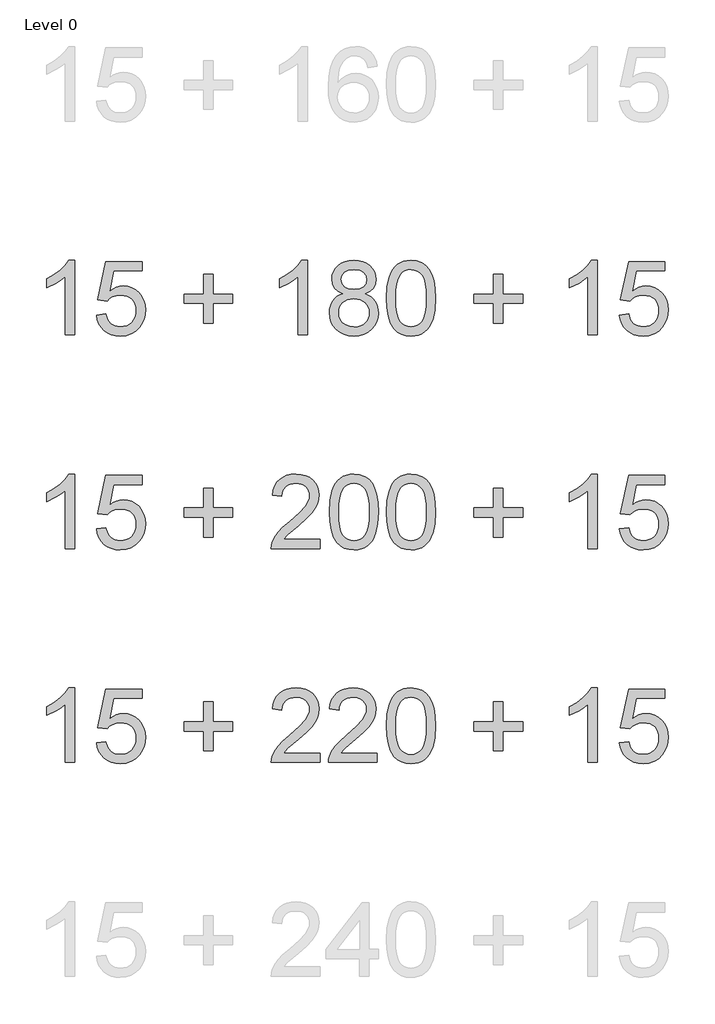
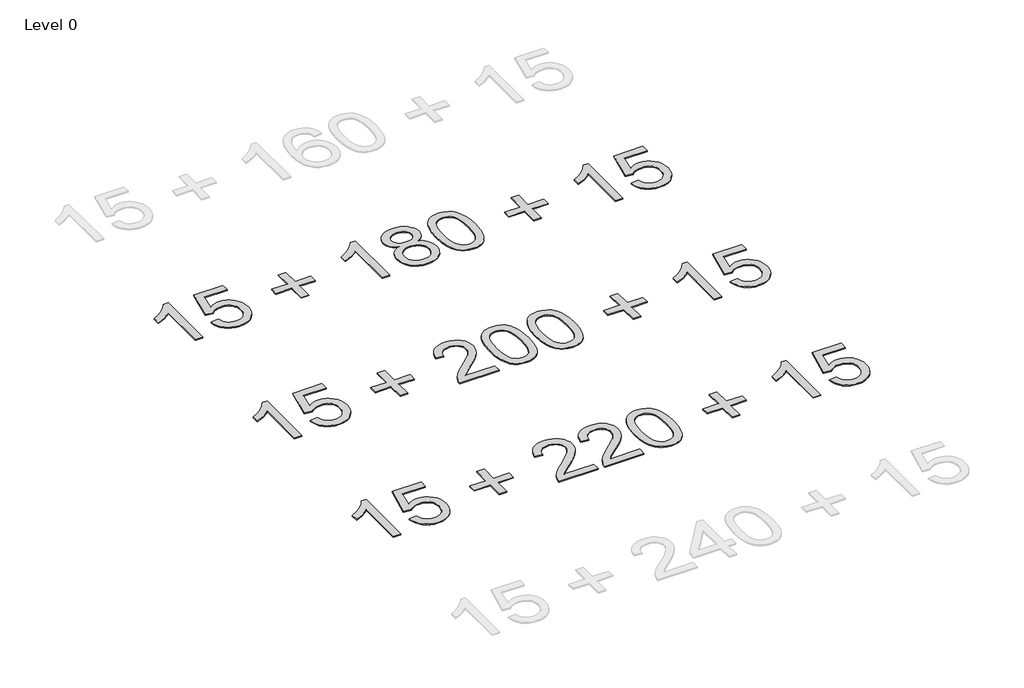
# One storey, part 7 of 11: 3 proxies.
"""IFC4 building model written with IfcOpenShell, lengths in millimetres."""

import ifcopenshell
import ifcopenshell.guid

model = None  # the IFC model being written
_history = None  # IfcOwnerHistory: only IFC2X3 demands one
_inside = {}  # id of a spatial element -> (the spatial element, [elements in it])
_under = {}  # id of a project, library or spatial element -> (it, [spatial elements below it])
_declared = {}  # id of a project -> (the project, [libraries it declares])
_typed = {}  # id of a type object -> (the type object, [elements of that type])
_made_of = {}  # id of a material, layer set ... -> (it, [elements and type objects made of it])


def new_model(schema):
    """Start an empty IFC model of exactly this schema.

    Asked for "IFC4X3", IfcOpenShell would pick the latest addendum, in which some entities
    have other attributes; the version numbers below select the first issue.
    IFC2X3 requires an IfcOwnerHistory on every rooted entity: one is made here for all.
    """
    global model, _history
    if schema == "IFC4X3":
        model = ifcopenshell.file(schema_version=(4, 3, 0, 0))
    else:
        model = ifcopenshell.file(schema=schema)
    _inside.clear()
    _under.clear()
    _declared.clear()
    _typed.clear()
    _made_of.clear()
    _history = None
    if model.schema == "IFC2X3":
        org = make("IfcOrganization", Name="unknown")
        user = make(
            "IfcPersonAndOrganization",
            ThePerson=make("IfcPerson", FamilyName="unknown"),
            TheOrganization=org,
        )
        app = make(
            "IfcApplication",
            ApplicationDeveloper=org,
            Version="unknown",
            ApplicationFullName="unknown",
            ApplicationIdentifier="unknown",
        )
        _history = make(
            "IfcOwnerHistory",
            OwningUser=user,
            OwningApplication=app,
            ChangeAction="ADDED",
            CreationDate=0,
        )
    return model


def make(cls, **values):
    """One entity of the class cls with the attributes given. An attribute that is None is left unset."""
    return model.create_entity(
        cls, **{name: value for name, value in values.items() if value is not None}
    )


def rooted(cls, **values):
    """An entity with a GlobalId (a new one), such as an element, a storey or a relation."""
    return make(cls, GlobalId=ifcopenshell.guid.new(), OwnerHistory=_history, **values)


def si_unit(unit_type, name, prefix=None):
    """IfcSIUnit, for example si_unit("LENGTHUNIT", "METRE", prefix="MILLI")."""
    return make("IfcSIUnit", UnitType=unit_type, Prefix=prefix, Name=name)


def assignment(units):
    """IfcUnitAssignment: the units of a project."""
    return None if units is None else make("IfcUnitAssignment", Units=units)


def point(xyz):
    """IfcCartesianPoint."""
    return None if xyz is None else make("IfcCartesianPoint", Coordinates=xyz)


def direction(xyz):
    """IfcDirection."""
    return None if xyz is None else make("IfcDirection", DirectionRatios=xyz)


def frame(location, z_axis=None, x_axis=None):
    """IfcAxis2Placement3D, a coordinate frame: its origin and axes. An axis left out is left unset."""
    return make(
        "IfcAxis2Placement3D",
        Location=point(location),
        Axis=direction(z_axis),
        RefDirection=direction(x_axis),
    )


def origin():
    """The frame at (0, 0, 0) with its axes left unset."""
    return frame((0.0, 0.0, 0.0))


def origin_with_axes():
    """The frame at (0, 0, 0) with the z axis (0, 0, 1) and the x axis (1, 0, 0) written out."""
    return frame((0.0, 0.0, 0.0), z_axis=(0.0, 0.0, 1.0), x_axis=(1.0, 0.0, 0.0))


def place(relative_to, where):
    """IfcLocalPlacement: puts the frame where relative to a parent placement (None: the world)."""
    return make(
        "IfcLocalPlacement", PlacementRelTo=relative_to, RelativePlacement=where
    )


def context(
    kind, dimensions, precision=None, world=None, true_north=None, identifier=None
):
    """IfcGeometricRepresentationContext, for example the 3D "Model" context."""
    return make(
        "IfcGeometricRepresentationContext",
        ContextIdentifier=identifier,
        ContextType=kind,
        CoordinateSpaceDimension=dimensions,
        Precision=precision,
        WorldCoordinateSystem=world,
        TrueNorth=true_north,
    )


def project(units=None, contexts=None):
    """IfcProject with its units and contexts."""
    return rooted(
        "IfcProject",
        Name="project",
        RepresentationContexts=contexts,
        UnitsInContext=assignment(units),
    )


def spatial(cls, under=None, at=None, **own):
    """A site, building, storey or space (cls), placed at a placement, below another one or the project."""
    s = rooted(cls, ObjectPlacement=at, **own)
    if under is not None:
        _under.setdefault(under.id(), (under, []))[1].append(s)
    return s


def polyline(points):
    """IfcPolyline through the points."""
    return make("IfcPolyline", Points=[point(p) for p in points])


def outline(outer, holes=None, kind="AREA"):
    """IfcArbitraryClosedProfileDef: a profile drawn as a closed curve; with holes, ...WithVoids."""
    if holes is None:
        return make("IfcArbitraryClosedProfileDef", ProfileType=kind, OuterCurve=outer)
    return make(
        "IfcArbitraryProfileDefWithVoids",
        ProfileType=kind,
        OuterCurve=outer,
        InnerCurves=holes,
    )


def extrude(swept, where, along, depth):
    """IfcExtrudedAreaSolid: the profile swept, set in the frame where, extruded along a direction by depth."""
    return make(
        "IfcExtrudedAreaSolid",
        SweptArea=swept,
        Position=where,
        ExtrudedDirection=direction(along),
        Depth=depth,
    )


def shape(context_of_items, identifier, shape_type, items):
    """IfcShapeRepresentation: the items that make up one representation, for example the "Body"."""
    return make(
        "IfcShapeRepresentation",
        ContextOfItems=context_of_items,
        RepresentationIdentifier=identifier,
        RepresentationType=shape_type,
        Items=items,
    )


def made_of(thing, what):
    """Note that an element or type object is made of a material, layer set ...; save() writes the relation."""
    if what is not None:
        _made_of.setdefault(what.id(), (what, []))[1].append(thing)
    return thing


def element(
    cls,
    number,
    at=None,
    inside=None,
    cuts=None,
    type_object=None,
    material=None,
    context=None,
    identifier="Body",
    shape_type=None,
    held_by="IfcProductDefinitionShape",
    body=None,
    shapes=None,
    **own,
):
    """One element of the class cls, such as IfcWall. Its Tag is "e" and its number.

    at: its placement. inside: the storey or other place that contains it. cuts: it is an
    opening in that element (IfcRelVoidsElement). A single representation is given by context,
    identifier, shape_type and body (its items); several are given by shapes. held_by: the class
    of the entity that holds the representations. save() writes the other relations.
    """
    e = rooted(cls, Tag="e%d" % number, ObjectPlacement=at, **own)
    if body is not None:
        shapes = [shape(context, identifier, shape_type, body)]
    if shapes is not None:
        e.Representation = make(held_by, Representations=shapes)
    if inside is not None:
        _inside.setdefault(inside.id(), (inside, []))[1].append(e)
    if cuts is not None:
        rooted(
            "IfcRelVoidsElement", RelatingBuildingElement=cuts, RelatedOpeningElement=e
        )
    if type_object is not None:
        _typed.setdefault(type_object.id(), (type_object, []))[1].append(e)
    return made_of(e, material)


def aggregate(whole, parts):
    """IfcRelAggregates: a whole, such as a stair, and the parts it consists of."""
    return rooted("IfcRelAggregates", RelatingObject=whole, RelatedObjects=parts)


def save(model, path):
    """Write the relations noted so far, then the file.

    IfcRelAggregates (storeys below a building ...), IfcRelContainedInSpatialStructure (elements
    in a storey), IfcRelDefinesByType, IfcRelAssociatesMaterial and IfcRelDeclares: one each for
    every whole, place, type object, material and project.
    """
    for whole, parts in _under.values():
        aggregate(whole, parts)
    for where, things in _inside.values():
        rooted(
            "IfcRelContainedInSpatialStructure",
            RelatedElements=things,
            RelatingStructure=where,
        )
    for kind, things in _typed.values():
        rooted("IfcRelDefinesByType", RelatedObjects=things, RelatingType=kind)
    for what, things in _made_of.values():
        rooted("IfcRelAssociatesMaterial", RelatedObjects=things, RelatingMaterial=what)
    for by, libraries in _declared.values():
        rooted("IfcRelDeclares", RelatingContext=by, RelatedDefinitions=libraries)
    model.write(path)


model = new_model("IFC4")

# Units and contexts
model_context = context("Model", 3, world=origin())
ifc_project = project(units=[si_unit("LENGTHUNIT", "METRE", prefix="MILLI")], contexts=[model_context])

# Site, building, storey
site = spatial("IfcSite", under=ifc_project)
building = spatial("IfcBuilding", under=site)
storey = spatial("IfcBuildingStorey", under=building, Name="Level 0", Elevation=0.0)

# Proxies
placement = place(None, origin())
element("IfcBuildingElementProxy", 1, Name="600mm Arial-500", ObjectType="600mm Arial-500", at=placement, inside=storey, context=model_context, shape_type="SweptSolid", body=[
    extrude(outline(polyline([(27142.4555622, 2770.6676088), (27079.6703683, 2770.6676088), (27079.6703683, 3162.0940517), (27053.4587762, 3140.8948517), (27020.1961124, 3119.7263086), (26954.0999806, 3088.0271433), (26954.0999806, 3147.3787719), (27003.4114964, 3174.2035007), (27046.1317931, 3206.1172638), (27079.8083241, 3240.0543778), (27101.9885427, 3272.9491596), (27142.4555622, 3272.9491596), (27142.4555622, 2770.6676088)])), origin_with_axes(), (0.0, 0.0, 1.0), 8.0),
    extrude(outline(polyline([(27291.5703975, 2904.0861457), (27354.3555914, 2911.934295), (27365.8825606, 2874.2417189), (27374.8650126, 2859.4076438), (27385.993443, 2847.2483775), (27399.244859, 2837.7792482), (27414.5962681, 2831.0155844), (27451.5990654, 2825.6046534), (27475.5113951, 2827.4862166), (27496.6032962, 2833.1309059), (27514.8747686, 2842.5387215), (27530.3258124, 2855.7096634), (27542.6115382, 2871.9922738), (27551.3870566, 2890.735095), (27556.6523677, 2911.9381271), (27558.4074714, 2935.60137), (27556.7634987, 2957.9655296), (27551.8315807, 2977.8464858), (27543.6117174, 2995.2442385), (27532.1039087, 3010.1587877), (27517.2698337, 3022.1226167), (27499.0711712, 3030.6682089), (27477.5079214, 3035.7955642), (27452.5800841, 3037.5046827), (27422.1225206, 3034.7762245), (27397.4590985, 3026.5908501), (27377.7620833, 3014.0522055), (27362.2037406, 2998.2639365), (27299.4185468, 3006.1120857), (27354.3555914, 3265.1010103), (27597.6482175, 3265.1010103), (27597.6482175, 3202.3158165), (27405.1233067, 3202.3158165), (27378.1452937, 3063.9921863), (27400.3025197, 3079.8724258), (27422.9962403, 3091.215454), (27446.2264555, 3098.0212709), (27469.9931652, 3100.2898765), (27500.573356, 3097.4771121), (27528.6703434, 3089.0388188), (27554.2841273, 3074.9749967), (27577.4147078, 3055.2856458), (27596.5675642, 3031.1740467), (27610.2481759, 3003.8434801), (27618.4565429, 2973.2939461), (27621.1926652, 2939.5254446), (27618.7324544, 2906.9985449), (27611.3518218, 2876.7402508), (27599.0507676, 2848.7505623), (27581.8292917, 2823.0294795), (27555.7403269, 2796.6875958), (27525.2980918, 2777.8719646), (27490.5025864, 2766.5825858), (27451.3538108, 2762.8194596), (27418.9533705, 2765.2375173), (27389.6875913, 2772.4916904), (27363.5564734, 2784.5819789), (27340.5600166, 2801.5083828), (27321.4263207, 2822.4278391), (27306.8834856, 2846.4972851), (27296.9315112, 2873.7167206), (27291.5703975, 2904.0861457)])), origin_with_axes(), (0.0, 0.0, 1.0), 8.0),
    extrude(outline(polyline([(28013.6001267, 2849.1491011), (28013.6001267, 2982.567638), (27880.1815898, 2982.567638), (27880.1815898, 3045.3528319), (28013.6001267, 3045.3528319), (28013.6001267, 3178.7713688), (28076.3853206, 3178.7713688), (28076.3853206, 3045.3528319), (28209.8038575, 3045.3528319), (28209.8038575, 2982.567638), (28076.3853206, 2982.567638), (28076.3853206, 2849.1491011), (28013.6001267, 2849.1491011)])), origin_with_axes(), (0.0, 0.0, 1.0), 8.0),
    extrude(outline(polyline([(28712.0854082, 2770.6676088), (28649.3002144, 2770.6676088), (28649.3002144, 3162.0940517), (28623.0886222, 3140.8948517), (28589.8259585, 3119.7263086), (28523.7298267, 3088.0271433), (28523.7298267, 3147.3787719), (28573.0413425, 3174.2035007), (28615.7616392, 3206.1172638), (28649.4381701, 3240.0543778), (28671.6183888, 3272.9491596), (28712.0854082, 3272.9491596), (28712.0854082, 2770.6676088)])), origin_with_axes(), (0.0, 0.0, 1.0), 8.0),
    extrude(outline(polyline([(28952.6802331, 3047.3148692), (28919.0650158, 3063.869559), (28895.4745828, 3086.3103607), (28881.5410523, 3114.1774218), (28876.8965421, 3147.0108899), (28879.4257308, 3172.6170096), (28887.0132969, 3196.0924794), (28899.6592405, 3217.4372993), (28917.3635615, 3236.6514694), (28939.2755329, 3252.5317088), (28964.5444274, 3263.874737), (28993.1702452, 3270.6805539), (29025.1529861, 3272.9491596), (29057.2890113, 3270.6269045), (29086.1294268, 3263.6601392), (29111.6742329, 3252.0488637), (29133.9234294, 3235.7930781), (29151.9496471, 3216.2033618), (29164.825517, 3194.5902946), (29172.5510389, 3170.9538764), (29175.1262128, 3145.2941072), (29170.5430163, 3113.5182999), (29156.7934267, 3086.1264197), (29133.72416, 3063.8235737), (29101.1819318, 3047.3148692), (29121.8178125, 3038.5355187), (29139.8248697, 3027.4032562), (29155.2031035, 3013.9180818), (29167.9525139, 2998.0799955), (29177.9581378, 2980.2415508), (29185.105012, 2960.7553014), (29190.8225113, 2916.8393882), (29187.9867542, 2885.5234334), (29179.4794831, 2856.8133094), (29165.3006979, 2830.7090161), (29145.4503986, 2807.2105537), (29120.9709175, 2787.78945), (29092.9045869, 2773.9172331), (29061.2514069, 2765.593903), (29026.0113775, 2762.8194596), (28990.771348, 2765.6053993), (28959.118168, 2773.9632184), (28931.0518375, 2787.8929168), (28906.5723564, 2807.3944947), (28886.722057, 2831.0577376), (28872.5432718, 2857.4724313), (28864.0360007, 2886.6385757), (28861.2002436, 2918.5561709), (28862.6871, 2942.3765301), (28867.1476692, 2964.1735383), (28874.5819512, 2983.9471955), (28884.989946, 3001.6975018), (28898.1417273, 3017.1025603), (28913.8073689, 3029.8404744), (28931.9868709, 3039.911244), (28952.6802331, 3047.3148692)]), holes=[polyline([(28939.6817359, 3145.1714799), (28945.2459511, 3117.7642713), (28961.9385966, 3095.8752926), (28974.3354534, 3087.5059772), (28989.2691632, 3081.5278947), (29026.7471414, 3076.7454288), (29063.3514, 3081.4972379), (29078.0206945, 3087.4369993), (29090.2680993, 3095.7526652), (29106.8227891, 3116.9058799), (29112.341019, 3142.3510513), (29106.6388481, 3168.7619129), (29089.5323353, 3190.6049063), (29077.009019, 3199.1619948), (29062.247754, 3205.2742009), (29026.0113775, 3210.1639657), (28989.5450747, 3205.3814998), (28974.7723133, 3199.4034174), (28962.3064786, 3191.034102), (28945.3379216, 3170.0035146), (28939.6817359, 3145.1714799)]), polyline([(28923.9854375, 2920.7634629), (28926.6065967, 2896.7438343), (28934.4700743, 2873.4906265), (28948.9860847, 2853.2111315), (28971.5648422, 2838.1126413), (28998.6041688, 2828.7316504), (29026.5018868, 2825.6046534), (29049.2032716, 2827.2486261), (29069.2375119, 2832.1805441), (29086.6046077, 2840.4004074), (29101.3045591, 2851.9082161), (29113.0001409, 2865.9528777), (29121.3541279, 2881.7832998), (29126.3665201, 2899.3994824), (29128.0373175, 2918.8014255), (29126.3128706, 2938.5137691), (29121.13953, 2956.4480164), (29112.5172958, 2972.6041673), (29100.4461678, 2986.982222), (29085.3476776, 2998.7851027), (29067.6433566, 3007.2157317), (29047.3332048, 3012.2741092), (29024.4172221, 3013.960235), (29002.0492304, 3012.2971018), (28982.2794053, 3007.3077022), (28965.1077467, 2998.9920363), (28950.5342548, 2987.350104), (28938.9191472, 2973.2096398), (28930.6226418, 2957.3983782), (28925.6447385, 2939.9163192), (28923.9854375, 2920.7634629)])]), origin_with_axes(), (0.0, 0.0, 1.0), 8.0),
    extrude(outline(polyline([(29245.7595559, 3017.7616822), (29250.3734093, 3098.1592266), (29264.2149693, 3162.2779927), (29274.5616504, 3188.4780885), (29287.1462804, 3211.0989991), (29301.9688591, 3230.1407245), (29319.0293866, 3245.6032646), (29338.3853445, 3257.5670936), (29360.0942143, 3266.1126858), (29384.1559961, 3271.2400411), (29410.5706897, 3272.9491596), (29449.2596129, 3268.9024576), (29483.9018341, 3256.7623518), (29512.8725412, 3237.004023), (29534.5469221, 3210.1026521), (29550.9176709, 3176.2881653), (29563.9774817, 3135.790489), (29572.5307381, 3084.3636518), (29575.3818236, 3017.7616822), (29570.8139555, 2937.8239904), (29557.1103512, 2873.8585085), (29546.8441442, 2847.6469163), (29534.3169959, 2824.9915168), (29519.5289061, 2805.8923099), (29502.4798749, 2790.3492956), (29483.1009244, 2778.3049923), (29461.3230767, 2769.7019186), (29437.1463318, 2764.5400743), (29410.5706897, 2762.8194596), (29375.9897822, 2765.8085008), (29345.3329493, 2774.7756244), (29318.600191, 2789.7208305), (29295.7915073, 2810.644119), (29273.9025285, 2848.4669866), (29258.2675437, 2895.594203), (29248.8865529, 2952.0257682), (29245.7595559, 3017.7616822)]), holes=[polyline([(29308.5447498, 3017.8843096), (29310.3841597, 2963.3036507), (29315.9023897, 2919.1233223), (29325.0994395, 2885.3433245), (29337.9753094, 2861.9636573), (29353.5489805, 2846.0565931), (29370.8394343, 2834.6944044), (29389.8466707, 2827.8770912), (29410.5706897, 2825.6046534), (29431.2947088, 2827.8847554), (29450.3019452, 2834.7250612), (29467.592399, 2846.125571), (29483.1660701, 2862.0862846), (29496.04194, 2885.5042729), (29505.2389898, 2919.2766065), (29510.7572198, 2963.4032854), (29512.5966297, 3017.8843096), (29510.8185334, 3071.0202653), (29505.4842445, 3114.4226765), (29496.593763, 3148.0915432), (29484.1470888, 3172.0268656), (29468.8340007, 3188.7118469), (29451.3442775, 3200.6296907), (29431.6779192, 3207.780397), (29409.8349258, 3210.1639657), (29389.2182056, 3208.0639727), (29370.5328659, 3201.7639935), (29353.7789067, 3191.2640282), (29338.956328, 3176.5640768), (29325.6512625, 3150.5057688), (29316.1476443, 3115.3730383), (29310.4454734, 3071.1658852), (29308.5447498, 3017.8843096)])]), origin_with_axes(), (0.0, 0.0, 1.0), 8.0),
    extrude(outline(polyline([(29967.7892851, 2849.1491011), (29967.7892851, 2982.567638), (29834.3707482, 2982.567638), (29834.3707482, 3045.3528319), (29967.7892851, 3045.3528319), (29967.7892851, 3178.7713688), (30030.574479, 3178.7713688), (30030.574479, 3045.3528319), (30163.9930159, 3045.3528319), (30163.9930159, 2982.567638), (30030.574479, 2982.567638), (30030.574479, 2849.1491011), (29967.7892851, 2849.1491011)])), origin_with_axes(), (0.0, 0.0, 1.0), 8.0),
    extrude(outline(polyline([(30666.2745666, 2770.6676088), (30603.4893728, 2770.6676088), (30603.4893728, 3162.0940517), (30577.2777806, 3140.8948517), (30544.0151169, 3119.7263086), (30477.9189851, 3088.0271433), (30477.9189851, 3147.3787719), (30527.2305009, 3174.2035007), (30569.9507975, 3206.1172638), (30603.6273285, 3240.0543778), (30625.8075471, 3272.9491596), (30666.2745666, 3272.9491596), (30666.2745666, 2770.6676088)])), origin_with_axes(), (0.0, 0.0, 1.0), 8.0),
    extrude(outline(polyline([(30815.389402, 2904.0861457), (30878.1745958, 2911.934295), (30889.701565, 2874.2417189), (30898.6840171, 2859.4076438), (30909.8124474, 2847.2483775), (30923.0638635, 2837.7792482), (30938.4152726, 2831.0155844), (30975.4180699, 2825.6046534), (30999.3303996, 2827.4862166), (31020.4223006, 2833.1309059), (31038.6937731, 2842.5387215), (31054.1448169, 2855.7096634), (31066.4305427, 2871.9922738), (31075.2060611, 2890.735095), (31080.4713721, 2911.9381271), (31082.2264758, 2935.60137), (31080.5825032, 2957.9655296), (31075.6505852, 2977.8464858), (31067.4307218, 2995.2442385), (31055.9229132, 3010.1587877), (31041.0888381, 3022.1226167), (31022.8901757, 3030.6682089), (31001.3269258, 3035.7955642), (30976.3990886, 3037.5046827), (30945.941525, 3034.7762245), (30921.2781029, 3026.5908501), (30901.5810878, 3014.0522055), (30886.0227451, 2998.2639365), (30823.2375512, 3006.1120857), (30878.1745958, 3265.1010103), (31121.467222, 3265.1010103), (31121.467222, 3202.3158165), (30928.9423112, 3202.3158165), (30901.9642982, 3063.9921863), (30924.1215242, 3079.8724258), (30946.8152448, 3091.215454), (30970.0454599, 3098.0212709), (30993.8121697, 3100.2898765), (31024.3923605, 3097.4771121), (31052.4893479, 3089.0388188), (31078.1031318, 3074.9749967), (31101.2337122, 3055.2856458), (31120.3865686, 3031.1740467), (31134.0671803, 3003.8434801), (31142.2755473, 2973.2939461), (31145.0116697, 2939.5254446), (31142.5514588, 2906.9985449), (31135.1708263, 2876.7402508), (31122.8697721, 2848.7505623), (31105.6482962, 2823.0294795), (31079.5593314, 2796.6875958), (31049.1170963, 2777.8719646), (31014.3215909, 2766.5825858), (30975.1728152, 2762.8194596), (30942.7723749, 2765.2375173), (30913.5065958, 2772.4916904), (30887.3754778, 2784.5819789), (30864.379021, 2801.5083828), (30845.2453252, 2822.4278391), (30830.70249, 2846.4972851), (30820.7505157, 2873.7167206), (30815.389402, 2904.0861457)])), origin_with_axes(), (0.0, 0.0, 1.0), 8.0),
])
element("IfcBuildingElementProxy", 2, Name="600mm Arial-500", ObjectType="600mm Arial-500", at=placement, inside=storey, context=model_context, shape_type="SweptSolid", body=[
    extrude(outline(polyline([(27142.4555622, 1330.6676088), (27079.6703683, 1330.6676088), (27079.6703683, 1722.0940517), (27053.4587762, 1700.8948517), (27020.1961124, 1679.7263086), (26954.0999806, 1648.0271433), (26954.0999806, 1707.3787719), (27003.4114964, 1734.2035007), (27046.1317931, 1766.1172638), (27079.8083241, 1800.0543778), (27101.9885427, 1832.9491596), (27142.4555622, 1832.9491596), (27142.4555622, 1330.6676088)])), origin_with_axes(), (0.0, 0.0, 1.0), 8.0),
    extrude(outline(polyline([(27291.5703975, 1464.0861457), (27354.3555914, 1471.934295), (27365.8825606, 1434.2417189), (27374.8650126, 1419.4076438), (27385.993443, 1407.2483775), (27399.244859, 1397.7792482), (27414.5962681, 1391.0155844), (27451.5990654, 1385.6046534), (27475.5113951, 1387.4862166), (27496.6032962, 1393.1309059), (27514.8747686, 1402.5387215), (27530.3258124, 1415.7096634), (27542.6115382, 1431.9922738), (27551.3870566, 1450.735095), (27556.6523677, 1471.9381271), (27558.4074714, 1495.60137), (27556.7634987, 1517.9655296), (27551.8315807, 1537.8464858), (27543.6117174, 1555.2442385), (27532.1039087, 1570.1587877), (27517.2698337, 1582.1226167), (27499.0711712, 1590.6682089), (27477.5079214, 1595.7955642), (27452.5800841, 1597.5046827), (27422.1225206, 1594.7762245), (27397.4590985, 1586.5908501), (27377.7620833, 1574.0522055), (27362.2037406, 1558.2639365), (27299.4185468, 1566.1120857), (27354.3555914, 1825.1010103), (27597.6482175, 1825.1010103), (27597.6482175, 1762.3158165), (27405.1233067, 1762.3158165), (27378.1452937, 1623.9921863), (27400.3025197, 1639.8724258), (27422.9962403, 1651.215454), (27446.2264555, 1658.0212709), (27469.9931652, 1660.2898765), (27500.573356, 1657.4771121), (27528.6703434, 1649.0388188), (27554.2841273, 1634.9749967), (27577.4147078, 1615.2856458), (27596.5675642, 1591.1740467), (27610.2481759, 1563.8434801), (27618.4565429, 1533.2939461), (27621.1926652, 1499.5254446), (27618.7324544, 1466.9985449), (27611.3518218, 1436.7402508), (27599.0507676, 1408.7505623), (27581.8292917, 1383.0294795), (27555.7403269, 1356.6875958), (27525.2980918, 1337.8719646), (27490.5025864, 1326.5825858), (27451.3538108, 1322.8194596), (27418.9533705, 1325.2375173), (27389.6875913, 1332.4916904), (27363.5564734, 1344.5819789), (27340.5600166, 1361.5083828), (27321.4263207, 1382.4278391), (27306.8834856, 1406.4972851), (27296.9315112, 1433.7167206), (27291.5703975, 1464.0861457)])), origin_with_axes(), (0.0, 0.0, 1.0), 8.0),
    extrude(outline(polyline([(28013.6001267, 1409.1491011), (28013.6001267, 1542.567638), (27880.1815898, 1542.567638), (27880.1815898, 1605.3528319), (28013.6001267, 1605.3528319), (28013.6001267, 1738.7713688), (28076.3853206, 1738.7713688), (28076.3853206, 1605.3528319), (28209.8038575, 1605.3528319), (28209.8038575, 1542.567638), (28076.3853206, 1542.567638), (28076.3853206, 1409.1491011), (28013.6001267, 1409.1491011)])), origin_with_axes(), (0.0, 0.0, 1.0), 8.0),
    extrude(outline(polyline([(28798.4150498, 1393.4528027), (28798.4150498, 1330.6676088), (28468.7927821, 1330.6676088), (28470.1723396, 1352.7711854), (28475.5372853, 1373.9550569), (28491.0343144, 1407.7848721), (28513.7356992, 1440.6030117), (28546.5538388, 1474.953993), (28592.4011325, 1513.3823331), (28660.1374048, 1573.5616961), (28700.7423801, 1617.9834471), (28721.021875, 1654.0358826), (28726.0917488, 1671.6942184), (28727.7817067, 1689.1072995), (28726.1837193, 1705.4895446), (28721.389757, 1720.5458816), (28713.39982, 1734.2763107), (28702.213908, 1746.6808317), (28688.4528222, 1756.9547028), (28672.7373632, 1764.2931822), (28655.0675311, 1768.6962699), (28635.4433259, 1770.1639657), (28596.2792218, 1764.431138), (28579.9736188, 1757.2651033), (28565.8523152, 1747.2326547), (28554.4288128, 1734.6710174), (28546.2166137, 1719.9174166), (28541.2157178, 1702.9718521), (28539.4261252, 1683.8343242), (28476.6409313, 1691.6824734), (28482.040366, 1724.09441), (28491.8620489, 1752.4136595), (28506.1059799, 1776.6402217), (28524.772159, 1796.7740967), (28547.4313907, 1812.6006867), (28573.6544791, 1823.9053939), (28603.4414244, 1830.6882181), (28636.7922266, 1832.9491596), (28670.4419328, 1830.4352993), (28700.3898265, 1822.8937184), (28726.6359076, 1810.3244169), (28749.1801761, 1792.7273948), (28767.286868, 1771.4055675), (28780.2202194, 1747.6618504), (28787.9802303, 1721.4962434), (28790.5669005, 1692.9087467), (28787.7771287, 1662.8803789), (28779.4078134, 1633.3731772), (28764.5545778, 1603.3601377), (28742.3130455, 1571.8142567), (28706.8584182, 1534.1523374), (28652.3658977, 1485.7911835), (28580.1383993, 1425.3972226), (28551.8114857, 1393.4528027), (28798.4150498, 1393.4528027)])), origin_with_axes(), (0.0, 0.0, 1.0), 8.0),
    extrude(outline(polyline([(28861.2002436, 1577.7616822), (28865.814097, 1658.1592266), (28879.655657, 1722.2779927), (28890.0023382, 1748.4780885), (28902.5869681, 1771.0989991), (28917.4095468, 1790.1407245), (28934.4700743, 1805.6032646), (28953.8260322, 1817.5670936), (28975.534902, 1826.1126858), (28999.5966838, 1831.2400411), (29026.0113775, 1832.9491596), (29064.7003006, 1828.9024576), (29099.3425218, 1816.7623518), (29128.3132289, 1797.004023), (29149.9876098, 1770.1026521), (29166.3583586, 1736.2881653), (29179.4181694, 1695.790489), (29187.9714258, 1644.3636518), (29190.8225113, 1577.7616822), (29186.2546432, 1497.8239904), (29172.5510389, 1433.8585085), (29162.2848319, 1407.6469163), (29149.7576836, 1384.9915168), (29134.9695938, 1365.8923099), (29117.9205626, 1350.3492956), (29098.5416121, 1338.3049923), (29076.7637644, 1329.7019186), (29052.5870195, 1324.5400743), (29026.0113775, 1322.8194596), (28991.4304699, 1325.8085008), (28960.773637, 1334.7756244), (28934.0408787, 1349.7208305), (28911.232195, 1370.644119), (28889.3432162, 1408.4669866), (28873.7082315, 1455.594203), (28864.3272406, 1512.0257682), (28861.2002436, 1577.7616822)]), holes=[polyline([(28923.9854375, 1577.8843096), (28925.8248474, 1523.3036507), (28931.3430774, 1479.1233223), (28940.5401272, 1445.3433245), (28953.4159971, 1421.9636573), (28968.9896682, 1406.0565931), (28986.280122, 1394.6944044), (29005.2873584, 1387.8770912), (29026.0113775, 1385.6046534), (29046.7353965, 1387.8847554), (29065.7426329, 1394.7250612), (29083.0330867, 1406.125571), (29098.6067578, 1422.0862846), (29111.4826277, 1445.5042729), (29120.6796775, 1479.2766065), (29126.1979075, 1523.4032854), (29128.0373175, 1577.8843096), (29126.2592211, 1631.0202653), (29120.9249322, 1674.4226765), (29112.0344507, 1708.0915432), (29099.5877765, 1732.0268656), (29084.2746884, 1748.7118469), (29066.7849653, 1760.6296907), (29047.1186069, 1767.780397), (29025.2756135, 1770.1639657), (29004.6588933, 1768.0639727), (28985.9735536, 1761.7639935), (28969.2195945, 1751.2640282), (28954.3970157, 1736.5640768), (28941.0919502, 1710.5057688), (28931.588332, 1675.3730383), (28925.8861611, 1631.1658852), (28923.9854375, 1577.8843096)])]), origin_with_axes(), (0.0, 0.0, 1.0), 8.0),
    extrude(outline(polyline([(29245.7595559, 1577.7616822), (29250.3734093, 1658.1592266), (29264.2149693, 1722.2779927), (29274.5616504, 1748.4780885), (29287.1462804, 1771.0989991), (29301.9688591, 1790.1407245), (29319.0293866, 1805.6032646), (29338.3853445, 1817.5670936), (29360.0942143, 1826.1126858), (29384.1559961, 1831.2400411), (29410.5706897, 1832.9491596), (29449.2596129, 1828.9024576), (29483.9018341, 1816.7623518), (29512.8725412, 1797.004023), (29534.5469221, 1770.1026521), (29550.9176709, 1736.2881653), (29563.9774817, 1695.790489), (29572.5307381, 1644.3636518), (29575.3818236, 1577.7616822), (29570.8139555, 1497.8239904), (29557.1103512, 1433.8585085), (29546.8441442, 1407.6469163), (29534.3169959, 1384.9915168), (29519.5289061, 1365.8923099), (29502.4798749, 1350.3492956), (29483.1009244, 1338.3049923), (29461.3230767, 1329.7019186), (29437.1463318, 1324.5400743), (29410.5706897, 1322.8194596), (29375.9897822, 1325.8085008), (29345.3329493, 1334.7756244), (29318.600191, 1349.7208305), (29295.7915073, 1370.644119), (29273.9025285, 1408.4669866), (29258.2675437, 1455.594203), (29248.8865529, 1512.0257682), (29245.7595559, 1577.7616822)]), holes=[polyline([(29308.5447498, 1577.8843096), (29310.3841597, 1523.3036507), (29315.9023897, 1479.1233223), (29325.0994395, 1445.3433245), (29337.9753094, 1421.9636573), (29353.5489805, 1406.0565931), (29370.8394343, 1394.6944044), (29389.8466707, 1387.8770912), (29410.5706897, 1385.6046534), (29431.2947088, 1387.8847554), (29450.3019452, 1394.7250612), (29467.592399, 1406.125571), (29483.1660701, 1422.0862846), (29496.04194, 1445.5042729), (29505.2389898, 1479.2766065), (29510.7572198, 1523.4032854), (29512.5966297, 1577.8843096), (29510.8185334, 1631.0202653), (29505.4842445, 1674.4226765), (29496.593763, 1708.0915432), (29484.1470888, 1732.0268656), (29468.8340007, 1748.7118469), (29451.3442775, 1760.6296907), (29431.6779192, 1767.780397), (29409.8349258, 1770.1639657), (29389.2182056, 1768.0639727), (29370.5328659, 1761.7639935), (29353.7789067, 1751.2640282), (29338.956328, 1736.5640768), (29325.6512625, 1710.5057688), (29316.1476443, 1675.3730383), (29310.4454734, 1631.1658852), (29308.5447498, 1577.8843096)])]), origin_with_axes(), (0.0, 0.0, 1.0), 8.0),
    extrude(outline(polyline([(29967.7892851, 1409.1491011), (29967.7892851, 1542.567638), (29834.3707482, 1542.567638), (29834.3707482, 1605.3528319), (29967.7892851, 1605.3528319), (29967.7892851, 1738.7713688), (30030.574479, 1738.7713688), (30030.574479, 1605.3528319), (30163.9930159, 1605.3528319), (30163.9930159, 1542.567638), (30030.574479, 1542.567638), (30030.574479, 1409.1491011), (29967.7892851, 1409.1491011)])), origin_with_axes(), (0.0, 0.0, 1.0), 8.0),
    extrude(outline(polyline([(30666.2745666, 1330.6676088), (30603.4893728, 1330.6676088), (30603.4893728, 1722.0940517), (30577.2777806, 1700.8948517), (30544.0151169, 1679.7263086), (30477.9189851, 1648.0271433), (30477.9189851, 1707.3787719), (30527.2305009, 1734.2035007), (30569.9507975, 1766.1172638), (30603.6273285, 1800.0543778), (30625.8075471, 1832.9491596), (30666.2745666, 1832.9491596), (30666.2745666, 1330.6676088)])), origin_with_axes(), (0.0, 0.0, 1.0), 8.0),
    extrude(outline(polyline([(30815.389402, 1464.0861457), (30878.1745958, 1471.934295), (30889.701565, 1434.2417189), (30898.6840171, 1419.4076438), (30909.8124474, 1407.2483775), (30923.0638635, 1397.7792482), (30938.4152726, 1391.0155844), (30975.4180699, 1385.6046534), (30999.3303996, 1387.4862166), (31020.4223006, 1393.1309059), (31038.6937731, 1402.5387215), (31054.1448169, 1415.7096634), (31066.4305427, 1431.9922738), (31075.2060611, 1450.735095), (31080.4713721, 1471.9381271), (31082.2264758, 1495.60137), (31080.5825032, 1517.9655296), (31075.6505852, 1537.8464858), (31067.4307218, 1555.2442385), (31055.9229132, 1570.1587877), (31041.0888381, 1582.1226167), (31022.8901757, 1590.6682089), (31001.3269258, 1595.7955642), (30976.3990886, 1597.5046827), (30945.941525, 1594.7762245), (30921.2781029, 1586.5908501), (30901.5810878, 1574.0522055), (30886.0227451, 1558.2639365), (30823.2375512, 1566.1120857), (30878.1745958, 1825.1010103), (31121.467222, 1825.1010103), (31121.467222, 1762.3158165), (30928.9423112, 1762.3158165), (30901.9642982, 1623.9921863), (30924.1215242, 1639.8724258), (30946.8152448, 1651.215454), (30970.0454599, 1658.0212709), (30993.8121697, 1660.2898765), (31024.3923605, 1657.4771121), (31052.4893479, 1649.0388188), (31078.1031318, 1634.9749967), (31101.2337122, 1615.2856458), (31120.3865686, 1591.1740467), (31134.0671803, 1563.8434801), (31142.2755473, 1533.2939461), (31145.0116697, 1499.5254446), (31142.5514588, 1466.9985449), (31135.1708263, 1436.7402508), (31122.8697721, 1408.7505623), (31105.6482962, 1383.0294795), (31079.5593314, 1356.6875958), (31049.1170963, 1337.8719646), (31014.3215909, 1326.5825858), (30975.1728152, 1322.8194596), (30942.7723749, 1325.2375173), (30913.5065958, 1332.4916904), (30887.3754778, 1344.5819789), (30864.379021, 1361.5083828), (30845.2453252, 1382.4278391), (30830.70249, 1406.4972851), (30820.7505157, 1433.7167206), (30815.389402, 1464.0861457)])), origin_with_axes(), (0.0, 0.0, 1.0), 8.0),
])
element("IfcBuildingElementProxy", 3, Name="600mm Arial-500", ObjectType="600mm Arial-500", at=placement, inside=storey, context=model_context, shape_type="SweptSolid", body=[
    extrude(outline(polyline([(27142.4555622, -109.3323912), (27079.6703683, -109.3323912), (27079.6703683, 282.0940517), (27053.4587762, 260.8948517), (27020.1961124, 239.7263086), (26954.0999806, 208.0271433), (26954.0999806, 267.3787719), (27003.4114964, 294.2035007), (27046.1317931, 326.1172638), (27079.8083241, 360.0543778), (27101.9885427, 392.9491596), (27142.4555622, 392.9491596), (27142.4555622, -109.3323912)])), origin_with_axes(), (0.0, 0.0, 1.0), 8.0),
    extrude(outline(polyline([(27291.5703975, 24.0861457), (27354.3555914, 31.934295), (27365.8825606, -5.7582811), (27374.8650126, -20.5923562), (27385.993443, -32.7516225), (27399.244859, -42.2207518), (27414.5962681, -48.9844156), (27451.5990654, -54.3953466), (27475.5113951, -52.5137834), (27496.6032962, -46.8690941), (27514.8747686, -37.4612785), (27530.3258124, -24.2903366), (27542.6115382, -8.0077262), (27551.3870566, 10.735095), (27556.6523677, 31.9381271), (27558.4074714, 55.60137), (27556.7634987, 77.9655296), (27551.8315807, 97.8464858), (27543.6117174, 115.2442385), (27532.1039087, 130.1587877), (27517.2698337, 142.1226167), (27499.0711712, 150.6682089), (27477.5079214, 155.7955642), (27452.5800841, 157.5046827), (27422.1225206, 154.7762245), (27397.4590985, 146.5908501), (27377.7620833, 134.0522055), (27362.2037406, 118.2639365), (27299.4185468, 126.1120857), (27354.3555914, 385.1010103), (27597.6482175, 385.1010103), (27597.6482175, 322.3158165), (27405.1233067, 322.3158165), (27378.1452937, 183.9921863), (27400.3025197, 199.8724258), (27422.9962403, 211.215454), (27446.2264555, 218.0212709), (27469.9931652, 220.2898765), (27500.573356, 217.4771121), (27528.6703434, 209.0388188), (27554.2841273, 194.9749967), (27577.4147078, 175.2856458), (27596.5675642, 151.1740467), (27610.2481759, 123.8434801), (27618.4565429, 93.2939461), (27621.1926652, 59.5254446), (27618.7324544, 26.9985449), (27611.3518218, -3.2597492), (27599.0507676, -31.2494377), (27581.8292917, -56.9705205), (27555.7403269, -83.3124042), (27525.2980918, -102.1280354), (27490.5025864, -113.4174142), (27451.3538108, -117.1805404), (27418.9533705, -114.7624827), (27389.6875913, -107.5083096), (27363.5564734, -95.4180211), (27340.5600166, -78.4916172), (27321.4263207, -57.5721609), (27306.8834856, -33.5027149), (27296.9315112, -6.2832794), (27291.5703975, 24.0861457)])), origin_with_axes(), (0.0, 0.0, 1.0), 8.0),
    extrude(outline(polyline([(28013.6001267, -30.8508989), (28013.6001267, 102.567638), (27880.1815898, 102.567638), (27880.1815898, 165.3528319), (28013.6001267, 165.3528319), (28013.6001267, 298.7713688), (28076.3853206, 298.7713688), (28076.3853206, 165.3528319), (28209.8038575, 165.3528319), (28209.8038575, 102.567638), (28076.3853206, 102.567638), (28076.3853206, -30.8508989), (28013.6001267, -30.8508989)])), origin_with_axes(), (0.0, 0.0, 1.0), 8.0),
    extrude(outline(polyline([(28798.4150498, -46.5471973), (28798.4150498, -109.3323912), (28468.7927821, -109.3323912), (28470.1723396, -87.2288146), (28475.5372853, -66.0449431), (28491.0343144, -32.2151279), (28513.7356992, 0.6030117), (28546.5538388, 34.953993), (28592.4011325, 73.3823331), (28660.1374048, 133.5616961), (28700.7423801, 177.9834471), (28721.021875, 214.0358826), (28726.0917488, 231.6942184), (28727.7817067, 249.1072995), (28726.1837193, 265.4895446), (28721.389757, 280.5458816), (28713.39982, 294.2763107), (28702.213908, 306.6808317), (28688.4528222, 316.9547028), (28672.7373632, 324.2931822), (28655.0675311, 328.6962699), (28635.4433259, 330.1639657), (28596.2792218, 324.431138), (28579.9736188, 317.2651033), (28565.8523152, 307.2326547), (28554.4288128, 294.6710174), (28546.2166137, 279.9174166), (28541.2157178, 262.9718521), (28539.4261252, 243.8343242), (28476.6409313, 251.6824734), (28482.040366, 284.09441), (28491.8620489, 312.4136595), (28506.1059799, 336.6402217), (28524.772159, 356.7740967), (28547.4313907, 372.6006867), (28573.6544791, 383.9053939), (28603.4414244, 390.6882181), (28636.7922266, 392.9491596), (28670.4419328, 390.4352993), (28700.3898265, 382.8937184), (28726.6359076, 370.3244169), (28749.1801761, 352.7273948), (28767.286868, 331.4055675), (28780.2202194, 307.6618504), (28787.9802303, 281.4962434), (28790.5669005, 252.9087467), (28787.7771287, 222.8803789), (28779.4078134, 193.3731772), (28764.5545778, 163.3601377), (28742.3130455, 131.8142567), (28706.8584182, 94.1523374), (28652.3658977, 45.7911835), (28580.1383993, -14.6027774), (28551.8114857, -46.5471973), (28798.4150498, -46.5471973)])), origin_with_axes(), (0.0, 0.0, 1.0), 8.0),
    extrude(outline(polyline([(29182.9743621, -46.5471973), (29182.9743621, -109.3323912), (28853.3520944, -109.3323912), (28854.7316519, -87.2288146), (28860.0965976, -66.0449431), (28875.5936267, -32.2151279), (28898.2950115, 0.6030117), (28931.1131511, 34.953993), (28976.9604448, 73.3823331), (29044.6967171, 133.5616961), (29085.3016923, 177.9834471), (29105.5811873, 214.0358826), (29110.6510611, 231.6942184), (29112.341019, 249.1072995), (29110.7430316, 265.4895446), (29105.9490693, 280.5458816), (29097.9591322, 294.2763107), (29086.7732203, 306.6808317), (29073.0121344, 316.9547028), (29057.2966755, 324.2931822), (29039.6268434, 328.6962699), (29020.0026382, 330.1639657), (28980.8385341, 324.431138), (28964.5329311, 317.2651033), (28950.4116274, 307.2326547), (28938.9881251, 294.6710174), (28930.775926, 279.9174166), (28925.7750301, 262.9718521), (28923.9854375, 243.8343242), (28861.2002436, 251.6824734), (28866.5996783, 284.09441), (28876.4213612, 312.4136595), (28890.6652922, 336.6402217), (28909.3314713, 356.7740967), (28931.990703, 372.6006867), (28958.2137914, 383.9053939), (28988.0007367, 390.6882181), (29021.3515389, 392.9491596), (29055.0012451, 390.4352993), (29084.9491388, 382.8937184), (29111.1952199, 370.3244169), (29133.7394884, 352.7273948), (29151.8461803, 331.4055675), (29164.7795317, 307.6618504), (29172.5395426, 281.4962434), (29175.1262128, 252.9087467), (29172.336441, 222.8803789), (29163.9671256, 193.3731772), (29149.1138901, 163.3601377), (29126.8723578, 131.8142567), (29091.4177305, 94.1523374), (29036.92521, 45.7911835), (28964.6977116, -14.6027774), (28936.370798, -46.5471973), (29182.9743621, -46.5471973)])), origin_with_axes(), (0.0, 0.0, 1.0), 8.0),
    extrude(outline(polyline([(29245.7595559, 137.7616822), (29250.3734093, 218.1592266), (29264.2149693, 282.2779927), (29274.5616504, 308.4780885), (29287.1462804, 331.0989991), (29301.9688591, 350.1407245), (29319.0293866, 365.6032646), (29338.3853445, 377.5670936), (29360.0942143, 386.1126858), (29384.1559961, 391.2400411), (29410.5706897, 392.9491596), (29449.2596129, 388.9024576), (29483.9018341, 376.7623518), (29512.8725412, 357.004023), (29534.5469221, 330.1026521), (29550.9176709, 296.2881653), (29563.9774817, 255.790489), (29572.5307381, 204.3636518), (29575.3818236, 137.7616822), (29570.8139555, 57.8239904), (29557.1103512, -6.1414915), (29546.8441442, -32.3530837), (29534.3169959, -55.0084832), (29519.5289061, -74.1076901), (29502.4798749, -89.6507044), (29483.1009244, -101.6950077), (29461.3230767, -110.2980814), (29437.1463318, -115.4599257), (29410.5706897, -117.1805404), (29375.9897822, -114.1914992), (29345.3329493, -105.2243756), (29318.600191, -90.2791695), (29295.7915073, -69.355881), (29273.9025285, -31.5330134), (29258.2675437, 15.594203), (29248.8865529, 72.0257682), (29245.7595559, 137.7616822)]), holes=[polyline([(29308.5447498, 137.8843096), (29310.3841597, 83.3036507), (29315.9023897, 39.1233223), (29325.0994395, 5.3433245), (29337.9753094, -18.0363427), (29353.5489805, -33.9434069), (29370.8394343, -45.3055956), (29389.8466707, -52.1229088), (29410.5706897, -54.3953466), (29431.2947088, -52.1152446), (29450.3019452, -45.2749388), (29467.592399, -33.874429), (29483.1660701, -17.9137154), (29496.04194, 5.5042729), (29505.2389898, 39.2766065), (29510.7572198, 83.4032854), (29512.5966297, 137.8843096), (29510.8185334, 191.0202653), (29505.4842445, 234.4226765), (29496.593763, 268.0915432), (29484.1470888, 292.0268656), (29468.8340007, 308.7118469), (29451.3442775, 320.6296907), (29431.6779192, 327.780397), (29409.8349258, 330.1639657), (29389.2182056, 328.0639727), (29370.5328659, 321.7639935), (29353.7789067, 311.2640282), (29338.956328, 296.5640768), (29325.6512625, 270.5057688), (29316.1476443, 235.3730383), (29310.4454734, 191.1658852), (29308.5447498, 137.8843096)])]), origin_with_axes(), (0.0, 0.0, 1.0), 8.0),
    extrude(outline(polyline([(29967.7892851, -30.8508989), (29967.7892851, 102.567638), (29834.3707482, 102.567638), (29834.3707482, 165.3528319), (29967.7892851, 165.3528319), (29967.7892851, 298.7713688), (30030.574479, 298.7713688), (30030.574479, 165.3528319), (30163.9930159, 165.3528319), (30163.9930159, 102.567638), (30030.574479, 102.567638), (30030.574479, -30.8508989), (29967.7892851, -30.8508989)])), origin_with_axes(), (0.0, 0.0, 1.0), 8.0),
    extrude(outline(polyline([(30666.2745666, -109.3323912), (30603.4893728, -109.3323912), (30603.4893728, 282.0940517), (30577.2777806, 260.8948517), (30544.0151169, 239.7263086), (30477.9189851, 208.0271433), (30477.9189851, 267.3787719), (30527.2305009, 294.2035007), (30569.9507975, 326.1172638), (30603.6273285, 360.0543778), (30625.8075471, 392.9491596), (30666.2745666, 392.9491596), (30666.2745666, -109.3323912)])), origin_with_axes(), (0.0, 0.0, 1.0), 8.0),
    extrude(outline(polyline([(30815.389402, 24.0861457), (30878.1745958, 31.934295), (30889.701565, -5.7582811), (30898.6840171, -20.5923562), (30909.8124474, -32.7516225), (30923.0638635, -42.2207518), (30938.4152726, -48.9844156), (30975.4180699, -54.3953466), (30999.3303996, -52.5137834), (31020.4223006, -46.8690941), (31038.6937731, -37.4612785), (31054.1448169, -24.2903366), (31066.4305427, -8.0077262), (31075.2060611, 10.735095), (31080.4713721, 31.9381271), (31082.2264758, 55.60137), (31080.5825032, 77.9655296), (31075.6505852, 97.8464858), (31067.4307218, 115.2442385), (31055.9229132, 130.1587877), (31041.0888381, 142.1226167), (31022.8901757, 150.6682089), (31001.3269258, 155.7955642), (30976.3990886, 157.5046827), (30945.941525, 154.7762245), (30921.2781029, 146.5908501), (30901.5810878, 134.0522055), (30886.0227451, 118.2639365), (30823.2375512, 126.1120857), (30878.1745958, 385.1010103), (31121.467222, 385.1010103), (31121.467222, 322.3158165), (30928.9423112, 322.3158165), (30901.9642982, 183.9921863), (30924.1215242, 199.8724258), (30946.8152448, 211.215454), (30970.0454599, 218.0212709), (30993.8121697, 220.2898765), (31024.3923605, 217.4771121), (31052.4893479, 209.0388188), (31078.1031318, 194.9749967), (31101.2337122, 175.2856458), (31120.3865686, 151.1740467), (31134.0671803, 123.8434801), (31142.2755473, 93.2939461), (31145.0116697, 59.5254446), (31142.5514588, 26.9985449), (31135.1708263, -3.2597492), (31122.8697721, -31.2494377), (31105.6482962, -56.9705205), (31079.5593314, -83.3124042), (31049.1170963, -102.1280354), (31014.3215909, -113.4174142), (30975.1728152, -117.1805404), (30942.7723749, -114.7624827), (30913.5065958, -107.5083096), (30887.3754778, -95.4180211), (30864.379021, -78.4916172), (30845.2453252, -57.5721609), (30830.70249, -33.5027149), (30820.7505157, -6.2832794), (30815.389402, 24.0861457)])), origin_with_axes(), (0.0, 0.0, 1.0), 8.0),
])

save(model, "model.ifc")
